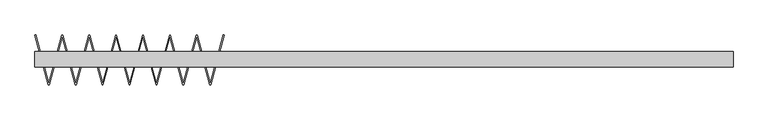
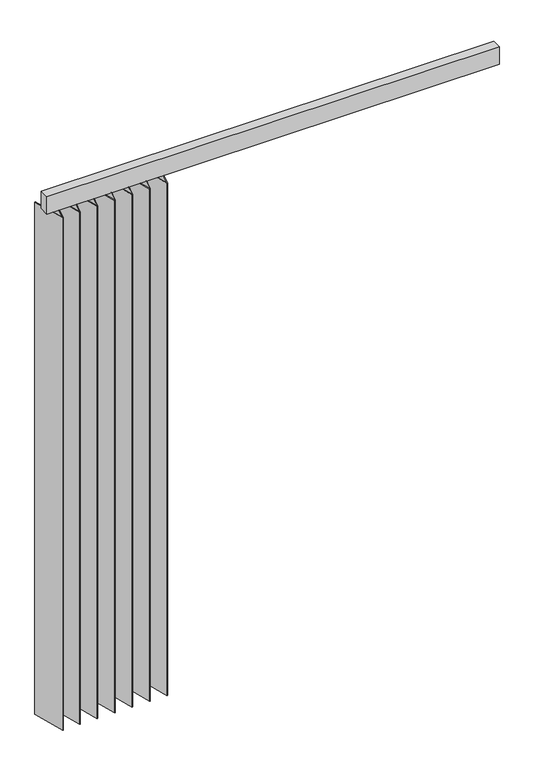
"""IFC4 building model written with IfcOpenShell, lengths in millimetres: furniture geometry, BIMHealth-Curtain_Dialysis-LOD2A-v1 : BIMHealth-Curtain_Dialysis-LOD2A-v1."""

import ifcopenshell
import ifcopenshell.guid

model = None  # the IFC model being written
_history = None  # IfcOwnerHistory: only IFC2X3 demands one
_inside = {}  # id of a spatial element -> (the spatial element, [elements in it])
_under = {}  # id of a project, library or spatial element -> (it, [spatial elements below it])
_declared = {}  # id of a project -> (the project, [libraries it declares])
_typed = {}  # id of a type object -> (the type object, [elements of that type])
_made_of = {}  # id of a material, layer set ... -> (it, [elements and type objects made of it])


def new_model(schema):
    """Start an empty IFC model of exactly this schema.

    Asked for "IFC4X3", IfcOpenShell would pick the latest addendum, in which some entities
    have other attributes; the version numbers below select the first issue.
    IFC2X3 requires an IfcOwnerHistory on every rooted entity: one is made here for all.
    """
    global model, _history
    if schema == "IFC4X3":
        model = ifcopenshell.file(schema_version=(4, 3, 0, 0))
    else:
        model = ifcopenshell.file(schema=schema)
    _inside.clear()
    _under.clear()
    _declared.clear()
    _typed.clear()
    _made_of.clear()
    _history = None
    if model.schema == "IFC2X3":
        org = make("IfcOrganization", Name="unknown")
        user = make(
            "IfcPersonAndOrganization",
            ThePerson=make("IfcPerson", FamilyName="unknown"),
            TheOrganization=org,
        )
        app = make(
            "IfcApplication",
            ApplicationDeveloper=org,
            Version="unknown",
            ApplicationFullName="unknown",
            ApplicationIdentifier="unknown",
        )
        _history = make(
            "IfcOwnerHistory",
            OwningUser=user,
            OwningApplication=app,
            ChangeAction="ADDED",
            CreationDate=0,
        )
    return model


def make(cls, **values):
    """One entity of the class cls with the attributes given. An attribute that is None is left unset."""
    return model.create_entity(
        cls, **{name: value for name, value in values.items() if value is not None}
    )


def rooted(cls, **values):
    """An entity with a GlobalId (a new one), such as an element, a storey or a relation."""
    return make(cls, GlobalId=ifcopenshell.guid.new(), OwnerHistory=_history, **values)


def si_unit(unit_type, name, prefix=None):
    """IfcSIUnit, for example si_unit("LENGTHUNIT", "METRE", prefix="MILLI")."""
    return make("IfcSIUnit", UnitType=unit_type, Prefix=prefix, Name=name)


def assignment(units):
    """IfcUnitAssignment: the units of a project."""
    return None if units is None else make("IfcUnitAssignment", Units=units)


def point(xyz):
    """IfcCartesianPoint."""
    return None if xyz is None else make("IfcCartesianPoint", Coordinates=xyz)


def direction(xyz):
    """IfcDirection."""
    return None if xyz is None else make("IfcDirection", DirectionRatios=xyz)


def frame(location, z_axis=None, x_axis=None):
    """IfcAxis2Placement3D, a coordinate frame: its origin and axes. An axis left out is left unset."""
    return make(
        "IfcAxis2Placement3D",
        Location=point(location),
        Axis=direction(z_axis),
        RefDirection=direction(x_axis),
    )


def origin():
    """The frame at (0, 0, 0) with its axes left unset."""
    return frame((0.0, 0.0, 0.0))


def place(relative_to, where):
    """IfcLocalPlacement: puts the frame where relative to a parent placement (None: the world)."""
    return make(
        "IfcLocalPlacement", PlacementRelTo=relative_to, RelativePlacement=where
    )


def context(
    kind, dimensions, precision=None, world=None, true_north=None, identifier=None
):
    """IfcGeometricRepresentationContext, for example the 3D "Model" context."""
    return make(
        "IfcGeometricRepresentationContext",
        ContextIdentifier=identifier,
        ContextType=kind,
        CoordinateSpaceDimension=dimensions,
        Precision=precision,
        WorldCoordinateSystem=world,
        TrueNorth=true_north,
    )


def project(units=None, contexts=None):
    """IfcProject with its units and contexts."""
    return rooted(
        "IfcProject",
        Name="project",
        RepresentationContexts=contexts,
        UnitsInContext=assignment(units),
    )


def spatial(cls, under=None, at=None, **own):
    """A site, building, storey or space (cls), placed at a placement, below another one or the project."""
    s = rooted(cls, ObjectPlacement=at, **own)
    if under is not None:
        _under.setdefault(under.id(), (under, []))[1].append(s)
    return s


def polyline(points):
    """IfcPolyline through the points."""
    return make("IfcPolyline", Points=[point(p) for p in points])


def outline(outer, holes=None, kind="AREA"):
    """IfcArbitraryClosedProfileDef: a profile drawn as a closed curve; with holes, ...WithVoids."""
    if holes is None:
        return make("IfcArbitraryClosedProfileDef", ProfileType=kind, OuterCurve=outer)
    return make(
        "IfcArbitraryProfileDefWithVoids",
        ProfileType=kind,
        OuterCurve=outer,
        InnerCurves=holes,
    )


def extrude(swept, where, along, depth):
    """IfcExtrudedAreaSolid: the profile swept, set in the frame where, extruded along a direction by depth."""
    return make(
        "IfcExtrudedAreaSolid",
        SweptArea=swept,
        Position=where,
        ExtrudedDirection=direction(along),
        Depth=depth,
    )


def shape(context_of_items, identifier, shape_type, items):
    """IfcShapeRepresentation: the items that make up one representation, for example the "Body"."""
    return make(
        "IfcShapeRepresentation",
        ContextOfItems=context_of_items,
        RepresentationIdentifier=identifier,
        RepresentationType=shape_type,
        Items=items,
    )


def source(mapping_origin, context_of_items, identifier, shape_type, items):
    """IfcRepresentationMap: a shape defined once, which mapped items show again and again."""
    return make(
        "IfcRepresentationMap",
        MappingOrigin=mapping_origin,
        MappedRepresentation=shape(context_of_items, identifier, shape_type, items),
    )


def transform(
    local_origin,
    x_axis=None,
    y_axis=None,
    z_axis=None,
    scale=None,
    scale2=None,
    scale3=None,
    uniform=True,
):
    """IfcCartesianTransformationOperator3D, or its non-uniform kind. x_axis, y_axis, z_axis: its Axis1, 2, 3."""
    if uniform:
        return make(
            "IfcCartesianTransformationOperator3D",
            Axis1=direction(x_axis),
            Axis2=direction(y_axis),
            LocalOrigin=point(local_origin),
            Scale=scale,
            Axis3=direction(z_axis),
        )
    return make(
        "IfcCartesianTransformationOperator3DnonUniform",
        Axis1=direction(x_axis),
        Axis2=direction(y_axis),
        LocalOrigin=point(local_origin),
        Scale=scale,
        Axis3=direction(z_axis),
        Scale2=scale2,
        Scale3=scale3,
    )


def mapped(mapping_source, mapping_target):
    """IfcMappedItem: shows the shape of a source again, moved by a transform."""
    return make(
        "IfcMappedItem", MappingSource=mapping_source, MappingTarget=mapping_target
    )


def made_of(thing, what):
    """Note that an element or type object is made of a material, layer set ...; save() writes the relation."""
    if what is not None:
        _made_of.setdefault(what.id(), (what, []))[1].append(thing)
    return thing


def element(
    cls,
    number,
    at=None,
    inside=None,
    cuts=None,
    type_object=None,
    material=None,
    context=None,
    identifier="Body",
    shape_type=None,
    held_by="IfcProductDefinitionShape",
    body=None,
    shapes=None,
    **own,
):
    """One element of the class cls, such as IfcWall. Its Tag is "e" and its number.

    at: its placement. inside: the storey or other place that contains it. cuts: it is an
    opening in that element (IfcRelVoidsElement). A single representation is given by context,
    identifier, shape_type and body (its items); several are given by shapes. held_by: the class
    of the entity that holds the representations. save() writes the other relations.
    """
    e = rooted(cls, Tag="e%d" % number, ObjectPlacement=at, **own)
    if body is not None:
        shapes = [shape(context, identifier, shape_type, body)]
    if shapes is not None:
        e.Representation = make(held_by, Representations=shapes)
    if inside is not None:
        _inside.setdefault(inside.id(), (inside, []))[1].append(e)
    if cuts is not None:
        rooted(
            "IfcRelVoidsElement", RelatingBuildingElement=cuts, RelatedOpeningElement=e
        )
    if type_object is not None:
        _typed.setdefault(type_object.id(), (type_object, []))[1].append(e)
    return made_of(e, material)


def aggregate(whole, parts):
    """IfcRelAggregates: a whole, such as a stair, and the parts it consists of."""
    return rooted("IfcRelAggregates", RelatingObject=whole, RelatedObjects=parts)


def save(model, path):
    """Write the relations noted so far, then the file.

    IfcRelAggregates (storeys below a building ...), IfcRelContainedInSpatialStructure (elements
    in a storey), IfcRelDefinesByType, IfcRelAssociatesMaterial and IfcRelDeclares: one each for
    every whole, place, type object, material and project.
    """
    for whole, parts in _under.values():
        aggregate(whole, parts)
    for where, things in _inside.values():
        rooted(
            "IfcRelContainedInSpatialStructure",
            RelatedElements=things,
            RelatingStructure=where,
        )
    for kind, things in _typed.values():
        rooted("IfcRelDefinesByType", RelatedObjects=things, RelatingType=kind)
    for what, things in _made_of.values():
        rooted("IfcRelAssociatesMaterial", RelatedObjects=things, RelatingMaterial=what)
    for by, libraries in _declared.values():
        rooted("IfcRelDeclares", RelatingContext=by, RelatedDefinitions=libraries)
    model.write(path)


def furniture_2eee4971(model_context):
    return source(origin(), model_context, "Body", "SweptSolid", [
        extrude(outline(polyline([(1860.0, -40.0), (0.0, -40.0), (0.0, 0.0), (1860.0, 0.0), (1860.0, -40.0)])), frame((0.0, 0.0, 2325.0), z_axis=(0.0, 0.0, 1.0), x_axis=(1.0, 0.0, 0.0)), (0.0, 0.0, 1.0), 75.0),
        extrude(outline(polyline([(35.8630189, -88.8426086), (0.0, 45.0), (1.9318517, 45.5176381), (36.8982951, -84.9789053), (71.7260378, 45.0), (73.7965901, 45.0), (108.6243328, -84.9789053), (143.4520755, 45.0), (145.5226279, 45.0), (180.3503706, -84.9789053), (215.1781133, 45.0), (217.2486657, 45.0), (252.0764084, -84.9789053), (286.9041511, 45.0), (288.9747035, 45.0), (323.8024462, -84.9789053), (358.6301889, 45.0), (360.7007412, 45.0), (395.5284839, -84.9789053), (430.3562266, 45.0), (432.426779, 45.0), (467.2545217, -84.9789053), (502.2209651, 45.5176381), (504.1528168, 45.0), (468.2897979, -88.8426086), (466.2192455, -88.8426086), (431.3915028, 41.1362967), (396.5637601, -88.8426086), (394.4932078, -88.8426086), (359.665465, 41.1362967), (324.8377223, -88.8426086), (322.76717, -88.8426086), (287.9394273, 41.1362967), (253.1116846, -88.8426086), (251.0411322, -88.8426086), (216.2133895, 41.1362967), (181.3856468, -88.8426086), (179.3150944, -88.8426086), (144.4873517, 41.1362967), (109.659609, -88.8426086), (107.5890567, -88.8426086), (72.761314, 41.1362967), (37.9335712, -88.8426086), (35.8630189, -88.8426086)])), frame((0.0, 0.0, 100.0), z_axis=(0.0, 0.0, 1.0), x_axis=(1.0, 0.0, 0.0)), (0.0, 0.0, 1.0), 2225.0),
    ])


if __name__ == "__main__":
    model = new_model("IFC4")
    model_context = context("Model", 3, world=origin())
    ifc_project = project(units=[si_unit("LENGTHUNIT", "METRE", prefix="MILLI")], contexts=[model_context])
    site = spatial("IfcSite", under=ifc_project)
    building = spatial("IfcBuilding", under=site)
    placement = place(None, origin())
    furniture_shape = furniture_2eee4971(model_context)
    element("IfcFurniture", 1, ObjectType="BIMHealth-Curtain_Dialysis-LOD2A-v1 : BIMHealth-Curtain_Dialysis-LOD2A-v1", at=placement, inside=building, context=model_context, shape_type="MappedRepresentation", body=[
        mapped(furniture_shape, transform((0.0, 0.0, 0.0), x_axis=(1.0, 0.0, 0.0), y_axis=(0.0, 1.0, 0.0), z_axis=(0.0, 0.0, 1.0))),
    ])
    save(model, "model.ifc")
